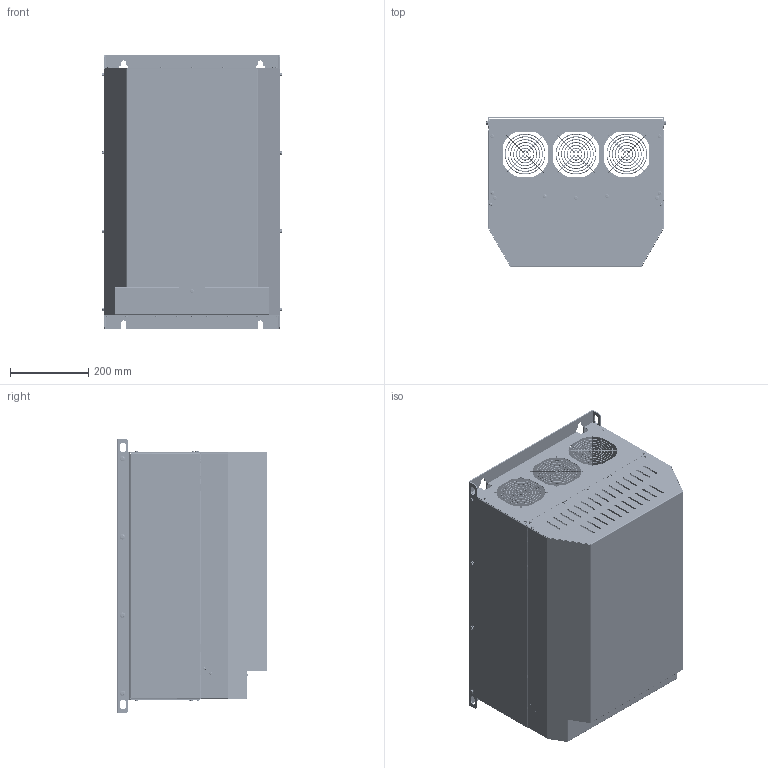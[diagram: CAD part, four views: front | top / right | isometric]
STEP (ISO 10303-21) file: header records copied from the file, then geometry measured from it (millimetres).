
FILE_DESCRIPTION((''),'2;1');
FILE_NAME('C:\Users\Samuel.Meier\Desktop\Fuer_Kamenka\EcoSine_Light_Typ_G.stp','2012-10-10T13:55:11',('Samuel.Meier'),(''),'Autodesk Inventor 2010','Autodesk Inventor 2010','');
FILE_SCHEMA(('AUTOMOTIVE_DESIGN { 1 0 10303 214 1 1 1 1 }'));
Length unit declared in the file: millimetre
Products named in the file (1): Bauteil41
Bounding box: 458.7 x 385 x 700 mm (x, y, z)
Volume: 2753890.4 mm3; surface area: 3191583.6 mm2
Topology: 96 solids, 96 shells, 4323 faces, 10800 edges, 6943 vertices
Faces by surface type: plane 1985, cylinder 892, bspline 711, cone 493, torus 228, sphere 14
Full cylindrical faces by diameter (mm): 3.2 x6, 3.3 x7, 3.5 x2, 4 x110, 4.3 x25, 4.51 x12, 5 x16, 5.3 x14, 5.5 x24, 6 x29, 6.5 x7, 6.8 x4, 7 x4, 7.3 x2, 7.9 x20, 8 x1, 8.7 x2, 9 x24, 9.188 x2, 9.9 x2, 10 x57, 10.5 x2, 11 x14, 11.05 x8, 12 x1, 12.7 x1, 14 x8, 15.4 x2, 16.5 x2, 20 x2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
Entity records: 169070 total; most frequent: CARTESIAN_POINT 69954, ORIENTED_EDGE 19662, DIRECTION 18106, EDGE_CURVE 9831, VERTEX_POINT 6738, AXIS2_PLACEMENT_3D 6709, EDGE_LOOP 5933, VECTOR 4688
